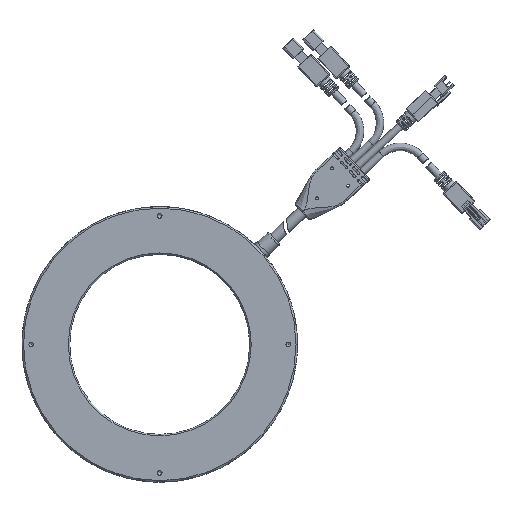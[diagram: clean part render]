
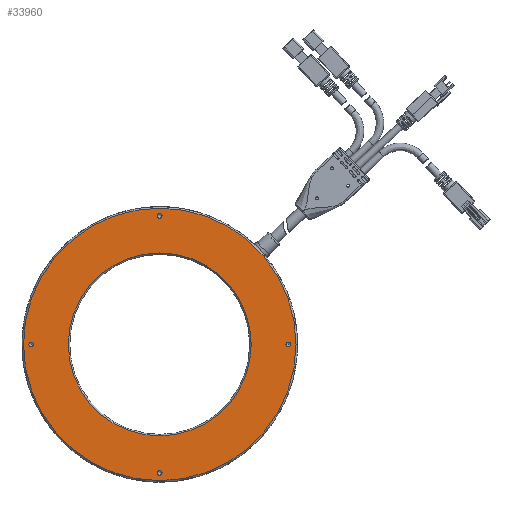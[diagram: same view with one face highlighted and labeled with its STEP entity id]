
A CAD part, front view. The second image highlights one B-rep face of the part: STEP entity #33960.
In plain terms, the highlighted planar face has unit normal (0, -1, 0).
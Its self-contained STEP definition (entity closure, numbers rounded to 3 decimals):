
#16 = FACE_BOUND ( 'NONE', #43271, .T. ) ;
#1165 = EDGE_CURVE ( 'NONE', #22383, #22383, #24651, .T. ) ;
#1246 = ORIENTED_EDGE ( 'NONE', *, *, #4001, .T. ) ;
#3109 = DIRECTION ( 'NONE',  ( 0., 0., -1. ) ) ;
#3301 = DIRECTION ( 'NONE',  ( 0., -1., 0. ) ) ;
#3770 = EDGE_LOOP ( 'NONE', ( #1246 ) ) ;
#4001 = EDGE_CURVE ( 'NONE', #39568, #39568, #42685, .T. ) ;
#4332 = DIRECTION ( 'NONE',  ( 0., 0., 1. ) ) ;
#5814 = VERTEX_POINT ( 'NONE', #19535 ) ;
#6213 = EDGE_LOOP ( 'NONE', ( #46801 ) ) ;
#6665 = CARTESIAN_POINT ( 'NONE',  ( 0., -2.106, 0. ) ) ;
#7634 = ORIENTED_EDGE ( 'NONE', *, *, #53155, .F. ) ;
#8229 = CARTESIAN_POINT ( 'NONE',  ( 0., -2.106, 74.2 ) ) ;
#10210 = EDGE_LOOP ( 'NONE', ( #32925 ) ) ;
#12610 = CIRCLE ( 'NONE', #39643, 1.25 ) ;
#12643 = VERTEX_POINT ( 'NONE', #33726 ) ;
#12804 = FACE_BOUND ( 'NONE', #6213, .T. ) ;
#13269 = EDGE_LOOP ( 'NONE', ( #7634 ) ) ;
#13343 = DIRECTION ( 'NONE',  ( 0., 0., -1. ) ) ;
#13850 = EDGE_CURVE ( 'NONE', #12643, #12643, #37259, .T. ) ;
#15336 = AXIS2_PLACEMENT_3D ( 'NONE', #50771, #3301, #35944 ) ;
#16416 = ORIENTED_EDGE ( 'NONE', *, *, #20004, .F. ) ;
#17183 = CARTESIAN_POINT ( 'NONE',  ( 0., -2.106, -70. ) ) ;
#19535 = CARTESIAN_POINT ( 'NONE',  ( 70., -2.106, -1.25 ) ) ;
#20004 = EDGE_CURVE ( 'NONE', #33558, #33558, #49825, .T. ) ;
#22324 = PLANE ( 'NONE',  #60271 ) ;
#22383 = VERTEX_POINT ( 'NONE', #60961 ) ;
#22767 = DIRECTION ( 'NONE',  ( 0., -1., 0. ) ) ;
#23316 = FACE_BOUND ( 'NONE', #10210, .T. ) ;
#24651 = CIRCLE ( 'NONE', #28732, 1.25 ) ;
#24926 = DIRECTION ( 'NONE',  ( 0., -1., 0. ) ) ;
#28732 = AXIS2_PLACEMENT_3D ( 'NONE', #60830, #51179, #13343 ) ;
#29307 = FACE_BOUND ( 'NONE', #13269, .T. ) ;
#29897 = AXIS2_PLACEMENT_3D ( 'NONE', #6665, #24926, #39730 ) ;
#30259 = CARTESIAN_POINT ( 'NONE',  ( 0., -2.106, 0. ) ) ;
#32113 = DIRECTION ( 'NONE',  ( 0., 1., 0. ) ) ;
#32925 = ORIENTED_EDGE ( 'NONE', *, *, #1165, .F. ) ;
#33558 = VERTEX_POINT ( 'NONE', #52320 ) ;
#33726 = CARTESIAN_POINT ( 'NONE',  ( 0., -2.106, 49.8 ) ) ;
#33960 = ADVANCED_FACE ( 'NONE', ( #16, #52422, #23316, #12804, #59950, #29307 ), #22324, .F. ) ;
#35944 = DIRECTION ( 'NONE',  ( 0., 0., -1. ) ) ;
#37259 = CIRCLE ( 'NONE', #39640, 49.8 ) ;
#38638 = EDGE_CURVE ( 'NONE', #5814, #5814, #51327, .T. ) ;
#39568 = VERTEX_POINT ( 'NONE', #8229 ) ;
#39640 = AXIS2_PLACEMENT_3D ( 'NONE', #57681, #57048, #4332 ) ;
#39643 = AXIS2_PLACEMENT_3D ( 'NONE', #17183, #45786, #3109 ) ;
#39730 = DIRECTION ( 'NONE',  ( 0., 0., 1. ) ) ;
#41945 = DIRECTION ( 'NONE',  ( 0., 0., 1. ) ) ;
#42685 = CIRCLE ( 'NONE', #29897, 74.2 ) ;
#43271 = EDGE_LOOP ( 'NONE', ( #51442 ) ) ;
#45786 = DIRECTION ( 'NONE',  ( 0., -1., 0. ) ) ;
#46745 = DIRECTION ( 'NONE',  ( 0., 0., -1. ) ) ;
#46801 = ORIENTED_EDGE ( 'NONE', *, *, #13850, .T. ) ;
#49102 = EDGE_LOOP ( 'NONE', ( #16416 ) ) ;
#49825 = CIRCLE ( 'NONE', #15336, 1.25 ) ;
#50771 = CARTESIAN_POINT ( 'NONE',  ( 0., -2.106, 70. ) ) ;
#51179 = DIRECTION ( 'NONE',  ( 0., -1., 0. ) ) ;
#51327 = CIRCLE ( 'NONE', #52026, 1.25 ) ;
#51442 = ORIENTED_EDGE ( 'NONE', *, *, #38638, .F. ) ;
#52026 = AXIS2_PLACEMENT_3D ( 'NONE', #55544, #22767, #46745 ) ;
#52320 = CARTESIAN_POINT ( 'NONE',  ( 0., -2.106, 68.75 ) ) ;
#52422 = FACE_BOUND ( 'NONE', #49102, .T. ) ;
#53155 = EDGE_CURVE ( 'NONE', #53715, #53715, #12610, .T. ) ;
#53715 = VERTEX_POINT ( 'NONE', #54184 ) ;
#54184 = CARTESIAN_POINT ( 'NONE',  ( 0., -2.106, -71.25 ) ) ;
#55544 = CARTESIAN_POINT ( 'NONE',  ( 70., -2.106, 0. ) ) ;
#57048 = DIRECTION ( 'NONE',  ( 0., 1., 0. ) ) ;
#57681 = CARTESIAN_POINT ( 'NONE',  ( 0., -2.106, 0. ) ) ;
#59950 = FACE_OUTER_BOUND ( 'NONE', #3770, .T. ) ;
#60271 = AXIS2_PLACEMENT_3D ( 'NONE', #30259, #32113, #41945 ) ;
#60830 = CARTESIAN_POINT ( 'NONE',  ( -70., -2.106, 0. ) ) ;
#60961 = CARTESIAN_POINT ( 'NONE',  ( -70., -2.106, -1.25 ) ) ;
